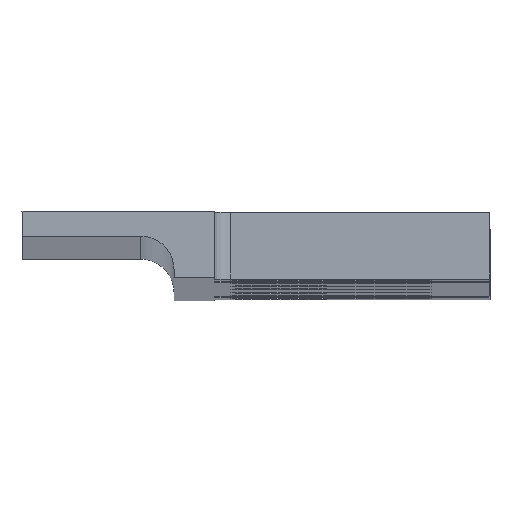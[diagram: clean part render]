
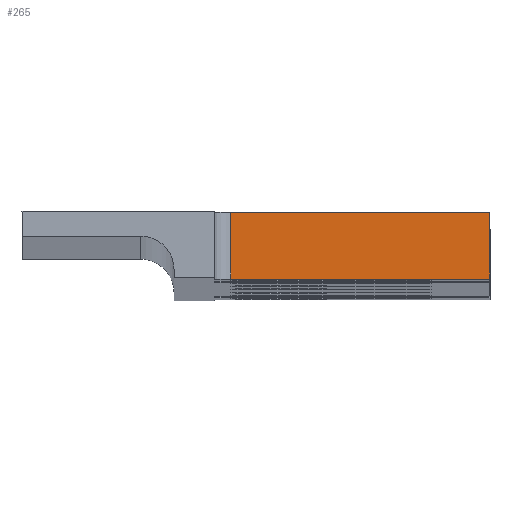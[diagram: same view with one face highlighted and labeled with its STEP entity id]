
A CAD part, top view. The second image highlights one B-rep face of the part: STEP entity #265.
In plain terms, the highlighted planar face has unit normal (0, 0, 1).
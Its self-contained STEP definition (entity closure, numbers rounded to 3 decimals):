
#46=PLANE('',#1099);
#68=FACE_OUTER_BOUND('',#475,.T.);
#105=LINE('',#1500,#166);
#115=LINE('',#1554,#176);
#130=LINE('',#1640,#191);
#131=LINE('',#1642,#192);
#166=VECTOR('',#1213,1.);
#176=VECTOR('',#1261,1.);
#191=VECTOR('',#1358,1.);
#192=VECTOR('',#1361,1.);
#265=ADVANCED_FACE('',(#68),#46,.F.);
#475=EDGE_LOOP('',(#680,#681,#682,#683));
#680=ORIENTED_EDGE('',*,*,#897,.T.);
#681=ORIENTED_EDGE('',*,*,#933,.T.);
#682=ORIENTED_EDGE('',*,*,#870,.F.);
#683=ORIENTED_EDGE('',*,*,#934,.F.);
#768=VERTEX_POINT('',#1499);
#769=VERTEX_POINT('',#1501);
#793=VERTEX_POINT('',#1553);
#794=VERTEX_POINT('',#1555);
#870=EDGE_CURVE('',#768,#769,#105,.T.);
#897=EDGE_CURVE('',#794,#793,#115,.T.);
#933=EDGE_CURVE('',#793,#769,#130,.T.);
#934=EDGE_CURVE('',#794,#768,#131,.T.);
#1099=AXIS2_PLACEMENT_3D('',#1643,#1362,#1363);
#1213=DIRECTION('',(-1.,0.,0.));
#1261=DIRECTION('',(-1.,0.,0.));
#1358=DIRECTION('',(0.,-1.,0.));
#1361=DIRECTION('',(0.,-1.,0.));
#1362=DIRECTION('',(0.,0.,-1.));
#1363=DIRECTION('',(0.,1.,0.));
#1499=CARTESIAN_POINT('',(-77.25,18.1,798.65));
#1500=CARTESIAN_POINT('',(-76.5,18.1,798.65));
#1501=CARTESIAN_POINT('',(-85.,18.1,798.65));
#1553=CARTESIAN_POINT('',(-85.,20.1,798.65));
#1554=CARTESIAN_POINT('',(-76.5,20.1,798.65));
#1555=CARTESIAN_POINT('',(-77.25,20.1,798.65));
#1640=CARTESIAN_POINT('',(-85.,17.897,798.65));
#1642=CARTESIAN_POINT('',(-77.25,17.897,798.65));
#1643=CARTESIAN_POINT('',(-76.5,17.897,798.65));
